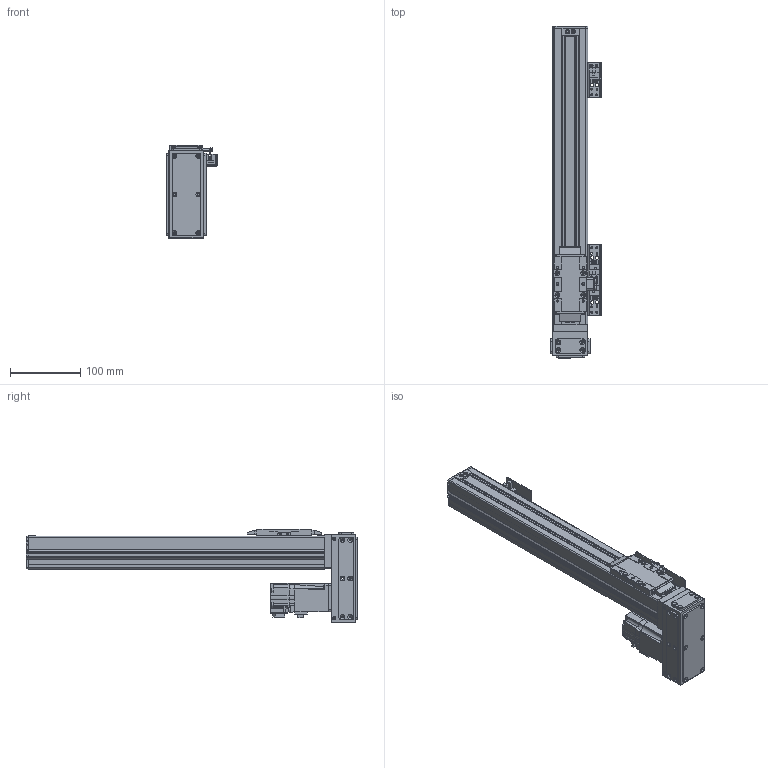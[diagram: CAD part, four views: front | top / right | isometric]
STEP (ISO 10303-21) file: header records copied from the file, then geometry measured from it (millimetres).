
FILE_DESCRIPTION(/* description */ (''),/* implementation_level */ '2;1');
FILE_NAME(/* name */ '\\192.168.0.160\disk1\HAN SHIN Master\B-설계부문\C-표준\B-2024년\BC02-표준도면\+로봇 개선표준도면\홈페이지 표준 도면\홈페이지 최종 작업 폴더\3D\HC\HC50-D10-N-0300-R10 (높이 변경).stp',/* time_stamp */ '2025-01-17T17:32:47+09:00',/* author */ ('user'),/* organization */ (''),/* preprocessor_version */ 'ST-DEVELOPER v18.1',/* originating_system */ 'Autodesk Inventor 2022',/* authorisation */ '');
FILE_SCHEMA (('AUTOMOTIVE_DESIGN { 1 0 10303 214 3 1 1 }'));
Length unit declared in the file: millimetre
Products named in the file (27): HC50-D10-N-0200-R10 (높이 변경); HC50 BASE-R1; HC50 REAR BLOCK; HR45 FRONT BLOCK; SENSOR DOG BRK; HC50 SENSOR DOG; ISO 4762 - M3 x 16; HC45 UPCOVER; HC75,90 SHEET PLATE; HC45, HC65 STOPPER; HC50 REAR COVER-R3; SENSOR BRK(EE-SX674A); EE_SX674A; ESF1210 NUT; HC50SIDECOVER000; HC50 TABLE (서버리 테이프); HC75 TABLE COVER; HC45 TABLE SIDE COVER; MAGNET(∅10X3); hg-kr13_; HC50 DS; HC50 D MOTOR PLATE; HR45 MOTOR PLATE 100W; HC50 D BELT COVER; HR45 ACRYL COVER(정면); HR45 ACRYL COVER(상하면); HR45 ACRYL COVER(측면)
Assembly tree (38 placements, depth 3):
  HC50-D10-N-0200-R10 (높이 변경)
    HC50 BASE-R1
    HC50 REAR BLOCK
    HR45 FRONT BLOCK
    SENSOR BRK(EE-SX674A)  x3
    EE_SX674A  x3
    SENSOR DOG BRK
    HC50 SENSOR DOG
    ISO 4762 - M3 x 16  x2
    HC45 UPCOVER
    HC75,90 SHEET PLATE  x2
    HC45, HC65 STOPPER  x2
    MAGNET(∅10X3)  x3
    HC50 REAR COVER-R3
    ESF1210 NUT
    HC50SIDECOVER000  x2
    HC45 TABLE SIDE COVER  x2
    HC50 TABLE (서버리 테이프)
    HC75 TABLE COVER
    hg-kr13_
    HC50 DS
      HC50 D MOTOR PLATE
      HR45 MOTOR PLATE 100W
      HC50 D BELT COVER
      HR45 ACRYL COVER(정면)
      HR45 ACRYL COVER(상하면)
      HR45 ACRYL COVER(측면)  x2
Bounding box: 72 x 473 x 133 mm (x, y, z)
Volume: 615892.4 mm3; surface area: 398267.7 mm2
Topology: 39 solids, 39 shells, 1551 faces, 4149 edges, 2722 vertices
Faces by surface type: plane 850, cylinder 591, cone 97, bspline 9, torus 4
Full cylindrical faces by diameter (mm): 2.013 x4, 2.459 x91, 3 x2, 3.242 x24, 3.4 x34, 3.5 x34, 4 x8, 4.5 x16, 5 x16, 5.5 x2, 5.6 x2, 5.9 x2, 6 x17, 6.5 x2, 8 x1, 9 x2, 10 x4, 10.5 x3, 12 x1, 15 x3, 18 x1, 21 x2, 22 x2, 24 x1, 24.5 x1, 26 x1, 30 x2
Entity records: 40203 total; most frequent: CARTESIAN_POINT 7729, DIRECTION 6615, ORIENTED_EDGE 6354, EDGE_CURVE 3177, AXIS2_PLACEMENT_3D 2255, VERTEX_POINT 2108, LINE 2105, VECTOR 2105
